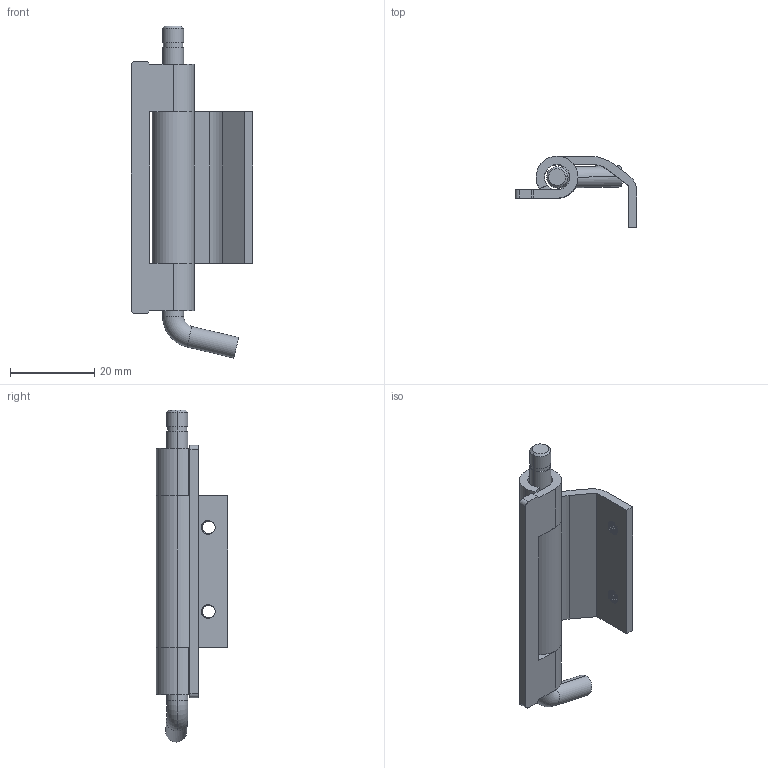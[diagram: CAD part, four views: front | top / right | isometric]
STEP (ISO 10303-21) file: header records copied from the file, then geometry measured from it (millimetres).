
FILE_DESCRIPTION (( 'STEP AP214' ), '1' );
FILE_NAME ('XG02-089.STEP', '2023-08-24T00:23:00', ( '' ), ( '' ), 'SwSTEP 2.0', 'SolidWorks 2019', '' );
FILE_SCHEMA (( 'AUTOMOTIVE_DESIGN' ));
Length unit declared in the file: millimetre
Products named in the file (4): XG02-089; 錨璃3; 錨璃2; 錨璃1
Assembly tree (3 placements, depth 2):
  XG02-089
    錨璃2
    錨璃3
    錨璃1
Bounding box: 29 x 17 x 78.97 mm (x, y, z)
Volume: 7038 mm3; surface area: 7659.3 mm2
Topology: 3 solids, 3 shells, 91 faces, 237 edges, 154 vertices
Faces by surface type: cylinder 51, plane 30, bspline 6, torus 2, cone 2
Entity records: 6469 total; most frequent: CARTESIAN_POINT 4172, ORIENTED_EDGE 474, DIRECTION 441, EDGE_CURVE 237, AXIS2_PLACEMENT_3D 165, VERTEX_POINT 154, VECTOR 111, LINE 111
